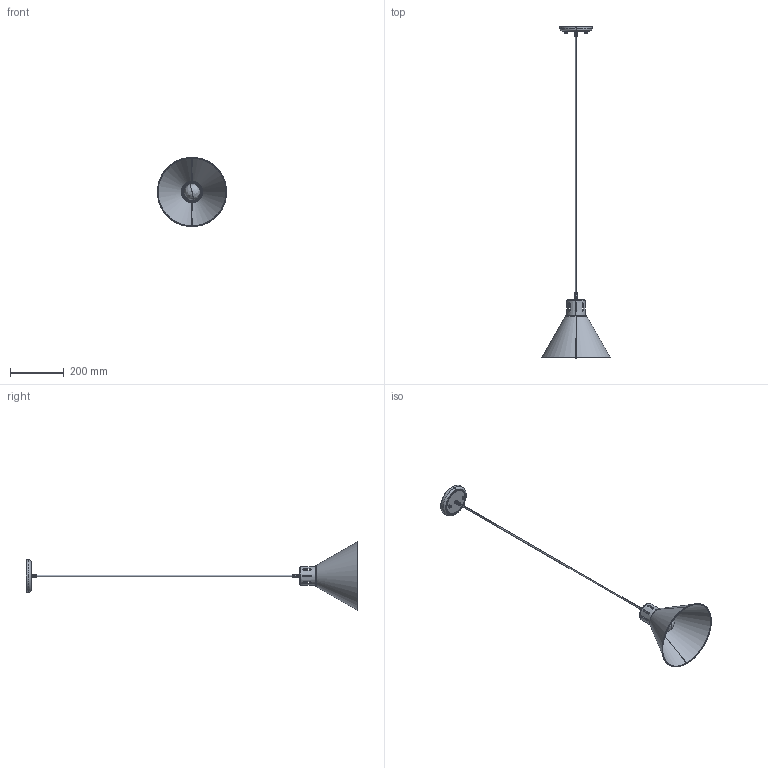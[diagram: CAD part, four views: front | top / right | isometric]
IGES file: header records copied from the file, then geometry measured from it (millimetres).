
Start section: SolidWorks IGES file using analytic representation for surfaces
Global section: file name: E:\3D lampy\Memfis\Memfis.IGS; native system: SolidWorks 2016; preprocessor: SolidWorks 2016; author: Asia; date: 170726.130747; units: millimetre
Bounding box: 257.8 x 1235.4 x 257.92 mm (x, y, z)
Surface area: 334560.5 mm2 (no closed solid volume)
Topology: 0 solids, 0 shells, 2052 faces, 22051 edges, 22023 vertices
Faces by surface type: bspline 1283, revolution 769
